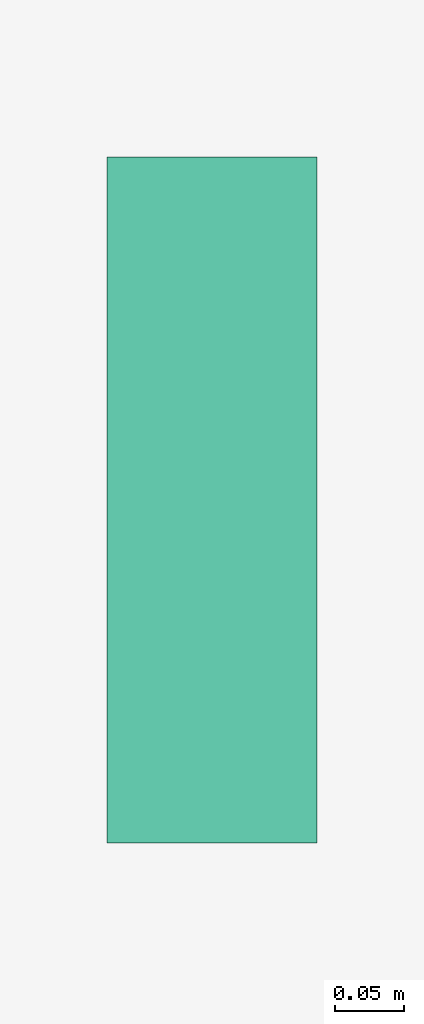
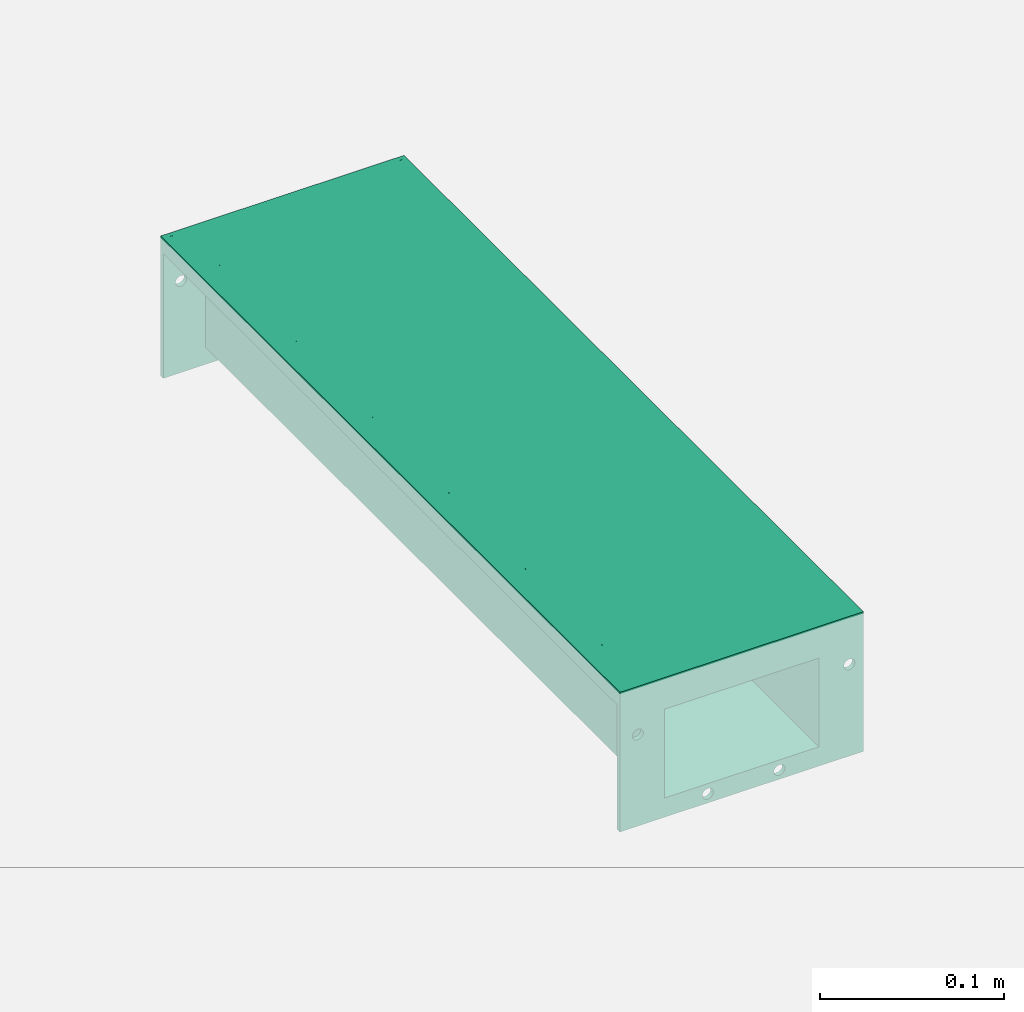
# One storey, part 2 of 2: 1 flow terminal.
"""IFC2X3 building model written with IfcOpenShell, lengths in millimetres."""

from ifc_helpers import new_model, entity, si_unit, converted_unit, direction, frame, frame_2d, origin, origin_2d_with_axis, place, context, subcontext, project, spatial, polyline, circle_curve, parameter, trimmed, segment, composite_curve, rectangle, outline, extrude, source, transform, mapped, material, material_list, element, save


model = new_model("IFC2X3")

# Units and contexts
model_context = context("Model", 3, precision=1e-06, world=origin(), true_north=direction((2.0, 6.12303176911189e-17, 1.0)))
context_of_model = context(None, 3, precision=1e-06, world=origin(), true_north=direction((2.0, 6.12303176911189e-17, 1.0)))
body_context = subcontext(model_context, "Body", "Model", "MODEL_VIEW")
ifc_project = project(units=[si_unit("LENGTHUNIT", "METRE", prefix="MILLI"), si_unit("AREAUNIT", "SQUARE_METRE", prefix="MILLI"), si_unit("VOLUMEUNIT", "CUBIC_METRE", prefix="MILLI"), converted_unit("PLANEANGLEUNIT", "DEGREE", entity("IfcRatioMeasure", 0.0174532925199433), si_unit("PLANEANGLEUNIT", "RADIAN"), dimensions=[0, 0, 0, 0, 0, 0, 0]), si_unit("TIMEUNIT", "SECOND")], contexts=[model_context, context_of_model])

# Site, building, storey
site_placement = place(None, origin())
site = spatial("IfcSite", under=ifc_project, at=site_placement, Name="Default", CompositionType="ELEMENT")
building_placement = place(site_placement, origin())
building = spatial("IfcBuilding", under=site, at=building_placement, CompositionType="ELEMENT")
storey_placement = place(building_placement, origin())
storey = spatial("IfcBuildingStorey", under=building, at=storey_placement, Name="Level 1", CompositionType="ELEMENT", Elevation=0.0)

# Flow terminal
ifc_material_1 = material(Name="Stainless Steel AISI 304")
ifc_material_2 = material(Name="Polystyrene, High Impact (F)")
ifc_material_list = material_list([ifc_material_1, ifc_material_2])
shared_shape = source(origin(), body_context, "Body", "SweptSolid", [
    extrude(rectangle(XDim=500.0, YDim=124.999917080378, at=origin_2d_with_axis()), frame((4.14598109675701e-05, 250.0, -21.0), z_axis=(0.0, 0.0, 1.0), x_axis=(0.0, 1.0, 0.0)), (0.0, 0.0, 1.0), 20.9999999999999),
    extrude(outline(polyline([(-76.50002763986, -35.8000000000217), (-62.4999447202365, -35.8000000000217), (-62.4999447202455, -14.8000000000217), (-48.4999447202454, -14.8000000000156), (-48.4999447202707, 44.1999999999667), (48.4999723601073, 44.2000000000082), (48.4999723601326, -14.7999999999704), (62.4999723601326, -14.7999999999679), (62.4999723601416, -35.7999999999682), (76.4999723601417, -35.7999999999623), (76.499972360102, 57.0), (-76.5000276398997, 57.0), (-76.50002763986, -35.8000000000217)]), holes=[composite_curve([segment(trimmed(circle_curve(frame_2d((67.7349848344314, -3.90142745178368), x_axis=(1.0, 0.0)), 3.5), [parameter(0.0)], [parameter(180.0)], True, "PARAMETER"), False, "CONTINUOUS"), segment(trimmed(circle_curve(frame_2d((67.7349848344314, -3.90142745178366), x_axis=(1.0, 0.0)), 3.5), [parameter(180.0)], [parameter(360.0)], True, "PARAMETER"), False, "CONTINUOUS")], self_intersect=False), composite_curve([segment(trimmed(circle_curve(frame_2d((23.7349848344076, 50.9218749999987), x_axis=(1.0, 0.0)), 3.5), [parameter(0.0)], [parameter(180.0)], True, "PARAMETER"), False, "CONTINUOUS"), segment(trimmed(circle_curve(frame_2d((23.7349848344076, 50.9218749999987), x_axis=(1.0, 0.0)), 3.5), [parameter(180.0)], [parameter(0.0)], True, "PARAMETER"), False, "CONTINUOUS")], self_intersect=False), composite_curve([segment(trimmed(circle_curve(frame_2d((-21.2650151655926, 50.9218749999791), x_axis=(1.0, 0.0)), 3.5), [parameter(180.0)], [parameter(360.0)], True, "PARAMETER"), False, "CONTINUOUS"), segment(trimmed(circle_curve(frame_2d((-21.2650151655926, 50.9218749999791), x_axis=(1.0, 0.0)), 3.5), [parameter(360.0)], [parameter(180.0)], True, "PARAMETER"), False, "CONTINUOUS")], self_intersect=False), composite_curve([segment(trimmed(circle_curve(frame_2d((-65.2650151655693, -3.90142745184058), x_axis=(1.0, 0.0)), 3.5), [parameter(179.999999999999)], [parameter(360.0)], True, "PARAMETER"), False, "CONTINUOUS"), segment(trimmed(circle_curve(frame_2d((-65.2650151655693, -3.90142745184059), x_axis=(1.0, 0.0)), 3.5), [parameter(0.0)], [parameter(180.0)], True, "PARAMETER"), False, "CONTINUOUS")], self_intersect=False)]), frame((2.7639875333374e-05, 497.0, -35.8000000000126), z_axis=(0.0, 1.0, 0.0), x_axis=(1.0, 0.0, 0.0)), (0.0, 0.0, 1.0), 2.99999999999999),
    extrude(outline(polyline([(-76.4999585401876, -35.80000137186), (-62.4999585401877, -35.80000137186), (-62.4999585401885, -14.8000013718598), (-48.4999585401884, -14.8000013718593), (-48.4999585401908, 44.1999986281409), (48.4999585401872, 44.1999986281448), (48.4999585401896, -14.8000013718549), (62.4999585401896, -14.8000013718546), (62.4999585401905, -35.800001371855), (76.4999585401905, -35.8000013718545), (76.4999585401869, 57.0000068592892), (-76.4999585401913, 57.0000068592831), (-76.4999585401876, -35.80000137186)]), holes=[composite_curve([segment(trimmed(circle_curve(frame_2d((67.7349710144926, -3.90142882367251), x_axis=(1.0, 0.0)), 3.5), [parameter(0.0)], [parameter(180.0)], True, "PARAMETER"), False, "CONTINUOUS"), segment(trimmed(circle_curve(frame_2d((67.7349710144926, -3.90142882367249), x_axis=(1.0, 0.0)), 3.5), [parameter(180.0)], [parameter(360.0)], True, "PARAMETER"), False, "CONTINUOUS")], self_intersect=False), composite_curve([segment(trimmed(circle_curve(frame_2d((23.7349710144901, 50.9218818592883), x_axis=(1.0, 0.0)), 3.5), [parameter(0.0)], [parameter(180.0)], True, "PARAMETER"), False, "CONTINUOUS"), segment(trimmed(circle_curve(frame_2d((23.7349710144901, 50.9218818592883), x_axis=(1.0, 0.0)), 3.5), [parameter(180.0)], [parameter(359.999999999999)], True, "PARAMETER"), False, "CONTINUOUS")], self_intersect=False), composite_curve([segment(trimmed(circle_curve(frame_2d((-21.2650289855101, 50.9218818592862), x_axis=(1.0, 0.0)), 3.5), [parameter(180.0)], [parameter(360.0)], True, "PARAMETER"), False, "CONTINUOUS"), segment(trimmed(circle_curve(frame_2d((-21.2650289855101, 50.9218818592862), x_axis=(1.0, 0.0)), 3.5), [parameter(360.0)], [parameter(180.0)], True, "PARAMETER"), False, "CONTINUOUS")], self_intersect=False), composite_curve([segment(trimmed(circle_curve(frame_2d((-65.265028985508, -3.90142882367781), x_axis=(1.0, 0.0)), 3.5), [parameter(180.0)], [parameter(0.0)], True, "PARAMETER"), False, "CONTINUOUS"), segment(trimmed(circle_curve(frame_2d((-65.265028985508, -3.90142882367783), x_axis=(1.0, 0.0)), 3.5), [parameter(0.0)], [parameter(180.0)], True, "PARAMETER"), False, "CONTINUOUS")], self_intersect=False)]), frame((4.14598109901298e-05, 0.0, -35.8000013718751), z_axis=(0.0, 1.0, 0.0), x_axis=(1.0, 0.0, 0.0)), (0.0, 0.0, 1.0), 3.0),
    extrude(outline(polyline([(-22.6243423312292, -62.4999585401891), (-22.6243423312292, -76.499958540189), (-12.6243423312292, -76.499958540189), (-12.6243423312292, -74.999958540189), (-21.1243423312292, -74.999958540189), (-21.1243423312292, -63.9999585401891), (-0.124342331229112, -63.9999585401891), (-0.124342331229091, -49.999958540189), (58.8717116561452, -49.999958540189), (58.8717116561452, 49.999958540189), (-0.124342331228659, 49.999958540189), (-0.124342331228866, 63.999958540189), (-21.124342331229, 63.9999585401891), (-21.1243423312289, 74.9999585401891), (-12.6243423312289, 74.9999585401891), (-12.6243423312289, 76.4999585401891), (-22.6243423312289, 76.4999585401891), (-22.624342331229, 62.4999585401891), (-1.62434233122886, 62.499958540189), (-1.62434233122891, 48.499958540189), (57.3717116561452, 48.499958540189), (57.3717116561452, -48.499958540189), (-1.62434233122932, -48.499958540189), (-1.62434233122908, -62.4999585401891), (-22.6243423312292, -62.4999585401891)])), frame((4.14598110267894e-05, 3.0, -22.6282883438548), z_axis=(0.0, -1.0, 0.0), x_axis=(0.0, 0.0, -1.0)), (0.0, 0.0, -1.0), 494.0),
    extrude(rectangle(XDim=497.0, YDim=11.0, at=origin_2d_with_axis()), frame((69.5000000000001, 251.5, -10.0), z_axis=(0.0, 0.0, 1.0), x_axis=(0.0, 1.0, 0.0)), (0.0, 0.0, 1.0), 8.50000000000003),
    extrude(rectangle(XDim=497.0, YDim=10.9999999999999, at=origin_2d_with_axis()), frame((-69.499917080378, 251.5, -10.0), z_axis=(0.0, 0.0, 1.0), x_axis=(0.0, 1.0, 0.0)), (0.0, 0.0, 1.0), 8.50000000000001),
])
flow_terminal_placement = place(storey_placement, frame((-147.883287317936, -204.664192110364, 0.0)))
element("IfcFlowTerminal", 1, at=flow_terminal_placement, inside=storey, material=ifc_material_list, Name="ACO BD Modular 125 Level Invert Straight Channels:105121 - Straight Channel - 500mm LG - Invert Depth 80mm:105121 - Straight Channel - 500mm LG - Invert Depth 80mm", ObjectType="105121 - Straight Channel - 500mm LG - Invert Depth 80mm", context=body_context, shape_type="MappedRepresentation", body=[
    mapped(shared_shape, transform((0.0, 0.0, 0.0), scale=1.0)),
])

save(model, "model.ifc")
